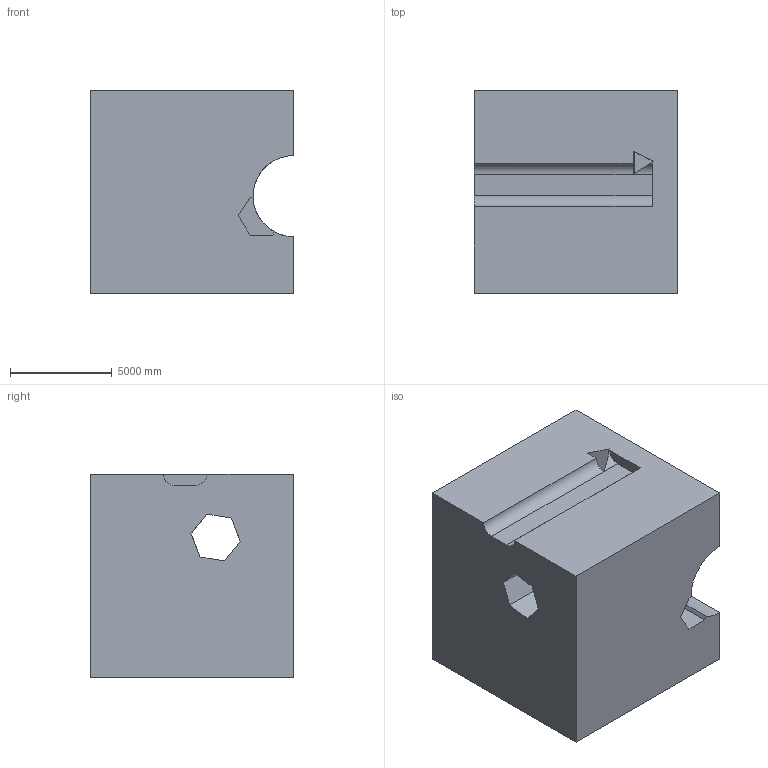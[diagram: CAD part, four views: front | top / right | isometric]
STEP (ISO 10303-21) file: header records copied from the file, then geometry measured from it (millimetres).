
FILE_DESCRIPTION (( 'STEP AP203' ), '1' );
FILE_NAME ('311.STEP', '2022-09-07T12:47:14', ( 'user' ), ( '' ), 'SwSTEP 2.0', 'SolidWorks 2021', '' );
FILE_SCHEMA (( 'CONFIG_CONTROL_DESIGN' ));
Length unit declared in the file: centimetre
Products named in the file (1): 311
Bounding box: 10000 x 10000 x 10000 mm (x, y, z)
Volume: 829355577990.3 mm3; surface area: 765482623.2 mm2
Topology: 1 solids, 1 shells, 31 faces, 96 edges, 64 vertices
Faces by surface type: plane 26, cylinder 5
Entity records: 1152 total; most frequent: CARTESIAN_POINT 219, ORIENTED_EDGE 192, DIRECTION 164, EDGE_CURVE 96, VECTOR 74, LINE 74, VERTEX_POINT 64, AXIS2_PLACEMENT_3D 45
